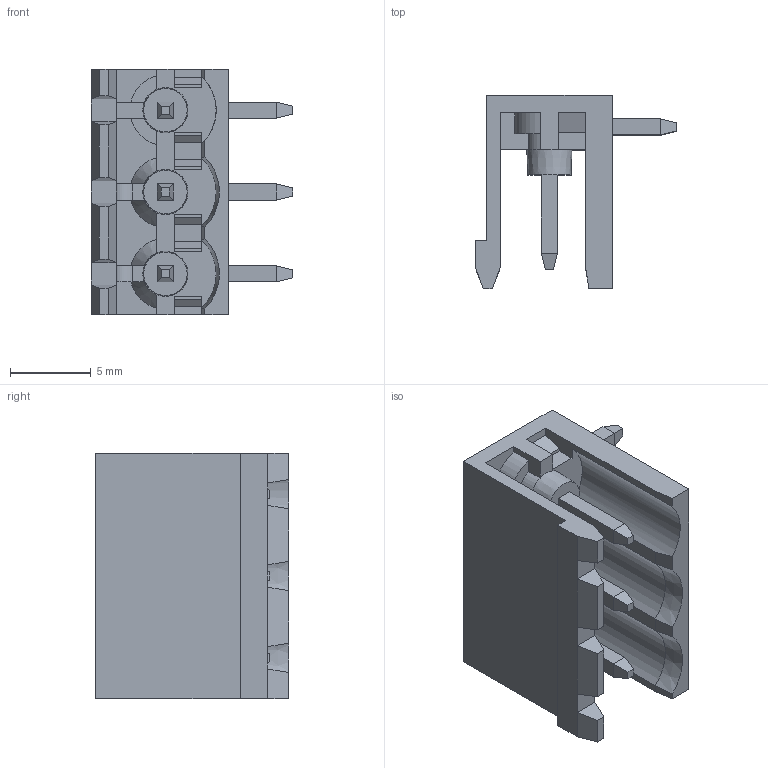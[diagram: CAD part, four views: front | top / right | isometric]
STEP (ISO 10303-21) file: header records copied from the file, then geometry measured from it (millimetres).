
FILE_DESCRIPTION(('FreeCAD Model'),'2;1');
FILE_NAME('Open CASCADE Shape Model','2022-11-10T15:39:10',( 'Engenharia Meltaltex'),('Engenharia Meltaltex'), 'Open CASCADE STEP processor 7.5','FreeCAD','Unknown');
FILE_SCHEMA(('AUTOMOTIVE_DESIGN { 1 0 10303 214 1 1 1 1 }'));
Length unit declared in the file: millimetre
Products named in the file (2): BR8MN1-03; SOLID
Assembly tree (1 placements, depth 2):
  BR8MN1-03
    SOLID
Bounding box: 12.5 x 12 x 15.24 mm (x, y, z)
Volume: 585.2 mm3; surface area: 1365 mm2
Topology: 1 solids, 1 shells, 266 faces, 697 edges, 433 vertices
Faces by surface type: plane 234, cylinder 14, cone 12, sphere 6
Entity records: 7985 total; most frequent: CARTESIAN_POINT 1458, ORIENTED_EDGE 1382, DIRECTION 1281, EDGE_CURVE 691, LINE 609, VECTOR 609, VERTEX_POINT 433, AXIS2_PLACEMENT_3D 336
